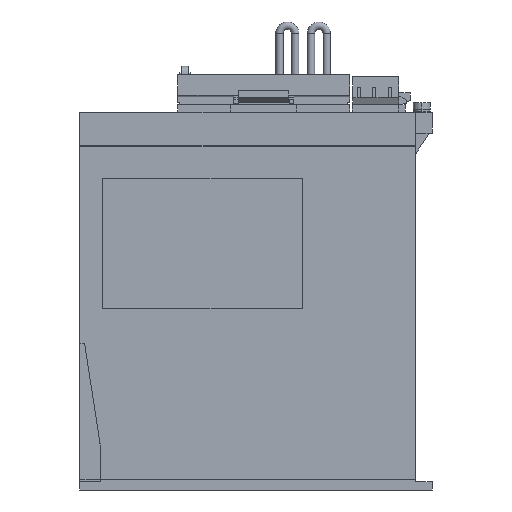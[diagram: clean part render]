
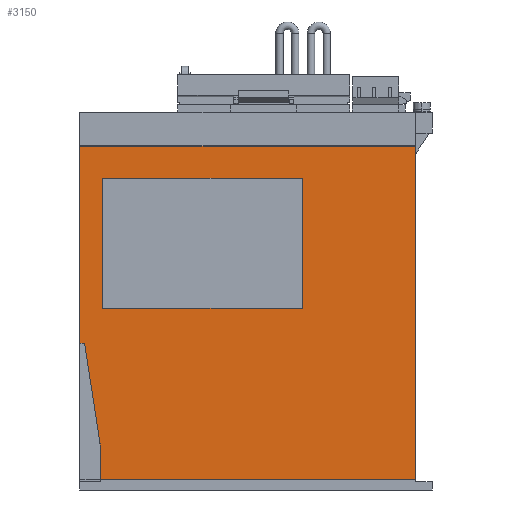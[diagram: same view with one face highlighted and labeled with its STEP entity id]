
A CAD part, left-side view. The second image highlights one B-rep face of the part: STEP entity #3150.
In plain terms, the highlighted planar face has unit normal (-1, 0, 0).
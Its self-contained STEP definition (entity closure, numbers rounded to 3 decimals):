
#1920 = VERTEX_POINT ( 'NONE', #21441 ) ;
#1922 = EDGE_CURVE ( 'NONE', #1920, #1923, #21440, .T. ) ;
#1923 = VERTEX_POINT ( 'NONE', #21436 ) ;
#3053 = VERTEX_POINT ( 'NONE', #23426 ) ;
#3055 = EDGE_CURVE ( 'NONE', #3124, #3053, #23424, .T. ) ;
#3124 = VERTEX_POINT ( 'NONE', #23557 ) ;
#3136 = ORIENTED_EDGE ( 'NONE', *, *, #3137, .F. ) ;
#3137 = EDGE_CURVE ( 'NONE', #3124, #1920, #23600, .T. ) ;
#3138 = ORIENTED_EDGE ( 'NONE', *, *, #3055, .T. ) ;
#3139 = EDGE_LOOP ( 'NONE', ( #3140, #3203, #3206, #3209 ) ) ;
#3140 = ORIENTED_EDGE ( 'NONE', *, *, #3141, .F. ) ;
#3141 = EDGE_CURVE ( 'NONE', #3142, #3202, #23596, .T. ) ;
#3142 = VERTEX_POINT ( 'NONE', #23592 ) ;
#3150 = ADVANCED_FACE ( 'NONE', ( #23577, #23576 ), #23639, .F. ) ;
#3151 = EDGE_LOOP ( 'NONE', ( #3152, #3155, #3219, #3222, #3224, #3136, #3138 ) ) ;
#3152 = ORIENTED_EDGE ( 'NONE', *, *, #3153, .T. ) ;
#3153 = EDGE_CURVE ( 'NONE', #3053, #3154, #23634, .T. ) ;
#3154 = VERTEX_POINT ( 'NONE', #23630 ) ;
#3155 = ORIENTED_EDGE ( 'NONE', *, *, #3156, .F. ) ;
#3156 = EDGE_CURVE ( 'NONE', #3218, #3154, #23629, .T. ) ;
#3202 = VERTEX_POINT ( 'NONE', #23672 ) ;
#3203 = ORIENTED_EDGE ( 'NONE', *, *, #3204, .F. ) ;
#3204 = EDGE_CURVE ( 'NONE', #3205, #3142, #23166, .T. ) ;
#3205 = VERTEX_POINT ( 'NONE', #23746 ) ;
#3206 = ORIENTED_EDGE ( 'NONE', *, *, #3207, .F. ) ;
#3207 = EDGE_CURVE ( 'NONE', #3208, #3205, #23744, .T. ) ;
#3208 = VERTEX_POINT ( 'NONE', #23740 ) ;
#3209 = ORIENTED_EDGE ( 'NONE', *, *, #3210, .F. ) ;
#3210 = EDGE_CURVE ( 'NONE', #3202, #3208, #23739, .T. ) ;
#3218 = VERTEX_POINT ( 'NONE', #23704 ) ;
#3219 = ORIENTED_EDGE ( 'NONE', *, *, #3220, .T. ) ;
#3220 = EDGE_CURVE ( 'NONE', #3218, #3221, #23775, .T. ) ;
#3221 = VERTEX_POINT ( 'NONE', #23771 ) ;
#3222 = ORIENTED_EDGE ( 'NONE', *, *, #3223, .T. ) ;
#3223 = EDGE_CURVE ( 'NONE', #3221, #1923, #23770, .T. ) ;
#3224 = ORIENTED_EDGE ( 'NONE', *, *, #1922, .F. ) ;
#21436 = CARTESIAN_POINT ( 'NONE',  ( -5., -155., 5.2 ) ) ;
#21437 = DIRECTION ( 'NONE',  ( 0., 0., -1. ) ) ;
#21438 = VECTOR ( 'NONE', #21437, 1000. ) ;
#21439 = CARTESIAN_POINT ( 'NONE',  ( -5., -155., 338.642 ) ) ;
#21440 = LINE ( 'NONE', #21439, #21438 ) ;
#21441 = CARTESIAN_POINT ( 'NONE',  ( -5., -155., 163.8 ) ) ;
#22642 = CARTESIAN_POINT ( 'NONE',  ( -5., -6., 86.6 ) ) ;
#22893 = DIRECTION ( 'NONE',  ( 0., -1., 0. ) ) ;
#22896 = VECTOR ( 'NONE', #22893, 1000. ) ;
#23166 = LINE ( 'NONE', #22642, #22896 ) ;
#23421 = DIRECTION ( 'NONE',  ( 0., 0., -1. ) ) ;
#23422 = VECTOR ( 'NONE', #23421, 1000. ) ;
#23423 = CARTESIAN_POINT ( 'NONE',  ( -5., 5., 338.642 ) ) ;
#23424 = LINE ( 'NONE', #23423, #23422 ) ;
#23426 = CARTESIAN_POINT ( 'NONE',  ( -5., 5., 70. ) ) ;
#23557 = CARTESIAN_POINT ( 'NONE',  ( -5., 5., 163.8 ) ) ;
#23576 = FACE_BOUND ( 'NONE', #3139, .T. ) ;
#23577 = FACE_OUTER_BOUND ( 'NONE', #3151, .T. ) ;
#23592 = CARTESIAN_POINT ( 'NONE',  ( -5., -101., 86.6 ) ) ;
#23593 = DIRECTION ( 'NONE',  ( 0., 0., 1. ) ) ;
#23594 = VECTOR ( 'NONE', #23593, 1000. ) ;
#23595 = CARTESIAN_POINT ( 'NONE',  ( -5., -101., 86.6 ) ) ;
#23596 = LINE ( 'NONE', #23595, #23594 ) ;
#23597 = DIRECTION ( 'NONE',  ( 0., -1., 0. ) ) ;
#23598 = VECTOR ( 'NONE', #23597, 1000. ) ;
#23599 = CARTESIAN_POINT ( 'NONE',  ( -5., 5., 163.8 ) ) ;
#23600 = LINE ( 'NONE', #23599, #23598 ) ;
#23626 = DIRECTION ( 'NONE',  ( 0., 0.152, 0.988 ) ) ;
#23627 = VECTOR ( 'NONE', #23626, 1000. ) ;
#23628 = CARTESIAN_POINT ( 'NONE',  ( -5., -5., 20. ) ) ;
#23629 = LINE ( 'NONE', #23628, #23627 ) ;
#23630 = CARTESIAN_POINT ( 'NONE',  ( -5., 2.692, 70. ) ) ;
#23631 = DIRECTION ( 'NONE',  ( 0., -1., 0. ) ) ;
#23632 = VECTOR ( 'NONE', #23631, 1000. ) ;
#23633 = CARTESIAN_POINT ( 'NONE',  ( -5., 5., 70. ) ) ;
#23634 = LINE ( 'NONE', #23633, #23632 ) ;
#23635 = DIRECTION ( 'NONE',  ( 0., 1., 0. ) ) ;
#23636 = DIRECTION ( 'NONE',  ( 1., 0., 0. ) ) ;
#23637 = CARTESIAN_POINT ( 'NONE',  ( -5., 5., 338.642 ) ) ;
#23638 = AXIS2_PLACEMENT_3D ( 'NONE', #23637, #23636, #23635 ) ;
#23639 = PLANE ( 'NONE',  #23638 ) ;
#23672 = CARTESIAN_POINT ( 'NONE',  ( -5., -101., 148.6 ) ) ;
#23704 = CARTESIAN_POINT ( 'NONE',  ( -5., -5., 20. ) ) ;
#23736 = DIRECTION ( 'NONE',  ( 0., 1., 0. ) ) ;
#23737 = VECTOR ( 'NONE', #23736, 1000. ) ;
#23738 = CARTESIAN_POINT ( 'NONE',  ( -5., -6., 148.6 ) ) ;
#23739 = LINE ( 'NONE', #23738, #23737 ) ;
#23740 = CARTESIAN_POINT ( 'NONE',  ( -5., -6., 148.6 ) ) ;
#23741 = DIRECTION ( 'NONE',  ( 0., 0., -1. ) ) ;
#23742 = VECTOR ( 'NONE', #23741, 1000. ) ;
#23743 = CARTESIAN_POINT ( 'NONE',  ( -5., -6., 86.6 ) ) ;
#23744 = LINE ( 'NONE', #23743, #23742 ) ;
#23746 = CARTESIAN_POINT ( 'NONE',  ( -5., -6., 86.6 ) ) ;
#23767 = DIRECTION ( 'NONE',  ( 0., -1., 0. ) ) ;
#23768 = VECTOR ( 'NONE', #23767, 1000. ) ;
#23769 = CARTESIAN_POINT ( 'NONE',  ( -5., -5., 5.2 ) ) ;
#23770 = LINE ( 'NONE', #23769, #23768 ) ;
#23771 = CARTESIAN_POINT ( 'NONE',  ( -5., -5., 5.2 ) ) ;
#23772 = DIRECTION ( 'NONE',  ( 0., 0., -1. ) ) ;
#23773 = VECTOR ( 'NONE', #23772, 1000. ) ;
#23774 = CARTESIAN_POINT ( 'NONE',  ( -5., -5., 20. ) ) ;
#23775 = LINE ( 'NONE', #23774, #23773 ) ;
